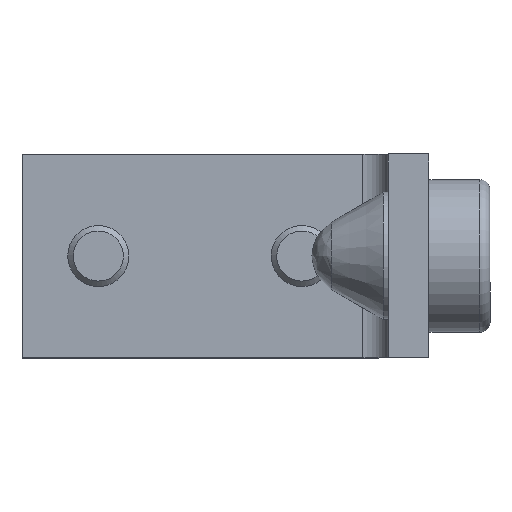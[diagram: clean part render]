
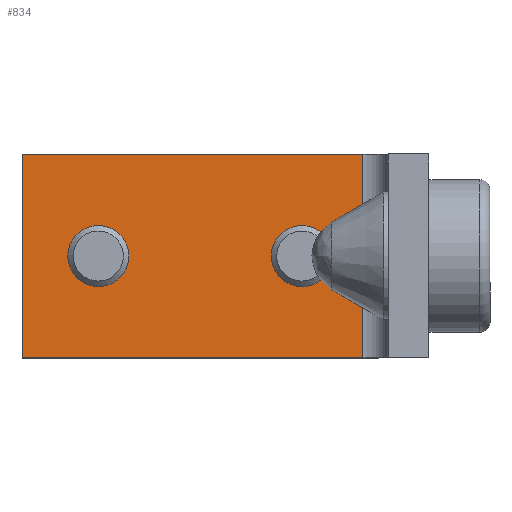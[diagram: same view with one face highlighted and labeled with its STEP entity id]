
A CAD part, top view. The second image highlights one B-rep face of the part: STEP entity #834.
In plain terms, the highlighted planar face has unit normal (0, 0, 1).
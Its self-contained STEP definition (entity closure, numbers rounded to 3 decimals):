
#78=LINE('',#1298,#126);
#81=LINE('',#1304,#129);
#86=LINE('',#1318,#134);
#87=LINE('',#1319,#135);
#126=VECTOR('',#1029,40.);
#129=VECTOR('',#1036,67.);
#134=VECTOR('',#1049,67.);
#135=VECTOR('',#1050,40.);
#173=PLANE('',#907);
#205=FACE_BOUND('',#306,.T.);
#206=FACE_BOUND('',#307,.T.);
#242=FACE_OUTER_BOUND('',#305,.T.);
#305=EDGE_LOOP('',(#635,#636,#637,#638));
#306=EDGE_LOOP('',(#639));
#307=EDGE_LOOP('',(#640));
#396=CIRCLE('',#908,5.053);
#397=CIRCLE('',#909,5.053);
#433=VERTEX_POINT('',#1280);
#436=VERTEX_POINT('',#1288);
#440=VERTEX_POINT('',#1303);
#445=VERTEX_POINT('',#1317);
#446=VERTEX_POINT('',#1320);
#447=VERTEX_POINT('',#1322);
#515=EDGE_CURVE('',#436,#433,#78,.T.);
#518=EDGE_CURVE('',#436,#440,#81,.T.);
#525=EDGE_CURVE('',#445,#433,#86,.T.);
#526=EDGE_CURVE('',#440,#445,#87,.T.);
#527=EDGE_CURVE('',#446,#446,#396,.T.);
#528=EDGE_CURVE('',#447,#447,#397,.T.);
#635=ORIENTED_EDGE('',*,*,#515,.T.);
#636=ORIENTED_EDGE('',*,*,#525,.F.);
#637=ORIENTED_EDGE('',*,*,#526,.F.);
#638=ORIENTED_EDGE('',*,*,#518,.F.);
#639=ORIENTED_EDGE('',*,*,#527,.T.);
#640=ORIENTED_EDGE('',*,*,#528,.T.);
#834=ADVANCED_FACE('',(#242,#205,#206),#173,.T.);
#907=AXIS2_PLACEMENT_3D('',#1316,#1047,#1048);
#908=AXIS2_PLACEMENT_3D('',#1321,#1051,#1052);
#909=AXIS2_PLACEMENT_3D('',#1323,#1053,#1054);
#1029=DIRECTION('',(0.,-1.,0.));
#1036=DIRECTION('',(1.,0.,0.));
#1047=DIRECTION('center_axis',(0.,0.,1.));
#1048=DIRECTION('ref_axis',(1.,0.,0.));
#1049=DIRECTION('',(-1.,0.,0.));
#1050=DIRECTION('',(0.,-1.,0.));
#1051=DIRECTION('center_axis',(0.,0.,-1.));
#1052=DIRECTION('ref_axis',(1.,0.,0.));
#1053=DIRECTION('center_axis',(0.,0.,-1.));
#1054=DIRECTION('ref_axis',(1.,0.,0.));
#1280=CARTESIAN_POINT('',(-8.5,-20.,8.));
#1288=CARTESIAN_POINT('',(-8.5,20.,8.));
#1298=CARTESIAN_POINT('',(-8.5,10.,8.));
#1303=CARTESIAN_POINT('',(58.5,20.,8.));
#1304=CARTESIAN_POINT('',(-58.5,20.,8.));
#1316=CARTESIAN_POINT('Origin',(0.,0.,
8.));
#1317=CARTESIAN_POINT('',(58.5,-20.,8.));
#1318=CARTESIAN_POINT('',(58.5,-20.,8.));
#1319=CARTESIAN_POINT('',(58.5,20.,8.));
#1320=CARTESIAN_POINT('',(8.553,0.,8.));
#1321=CARTESIAN_POINT('Origin',(3.5,0.,8.));
#1322=CARTESIAN_POINT('',(48.553,0.,8.));
#1323=CARTESIAN_POINT('Origin',(43.5,0.,8.));
